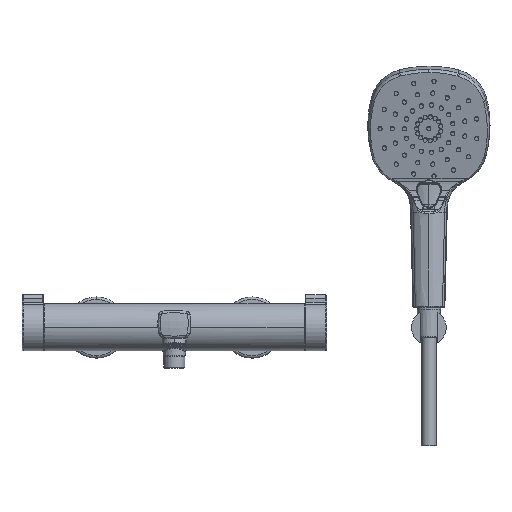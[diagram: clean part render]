
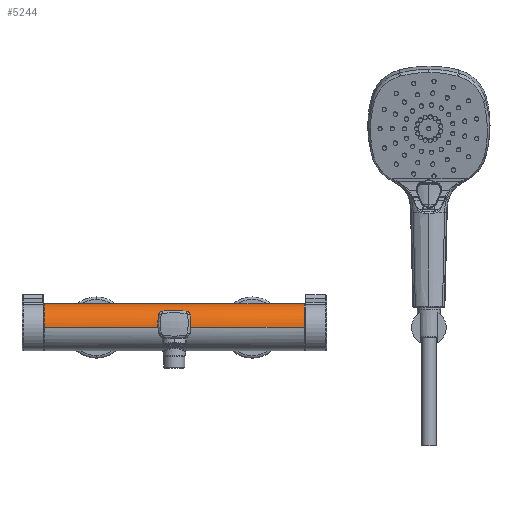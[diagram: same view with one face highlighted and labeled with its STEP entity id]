
A CAD part, top view. The second image highlights one B-rep face of the part: STEP entity #5244.
In plain terms, the highlighted cylindrical face has radius 23 mm (diameter 46 mm), a partial arc.
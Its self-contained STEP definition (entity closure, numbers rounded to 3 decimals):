
#526=CARTESIAN_POINT('',(11.932,15.741,16.77));
#527=CARTESIAN_POINT('',(9.215,15.973,16.552));
#528=CARTESIAN_POINT('',(3.827,16.27,16.257));
#529=CARTESIAN_POINT('',(-3.82,16.27,16.257));
#530=CARTESIAN_POINT('',(-9.212,15.973,16.552));
#531=CARTESIAN_POINT('',(-11.932,15.741,16.77));
#533=CARTESIAN_POINT('',(-11.932,15.741,16.77));
#534=CARTESIAN_POINT('',(-12.219,15.716,16.793));
#535=CARTESIAN_POINT('',(-12.763,15.609,16.894));
#536=CARTESIAN_POINT('',(-13.513,15.292,17.182));
#537=CARTESIAN_POINT('',(-14.143,14.862,17.557));
#538=CARTESIAN_POINT('',(-14.659,14.35,17.979));
#539=CARTESIAN_POINT('',(-15.068,13.766,18.431));
#540=CARTESIAN_POINT('',(-15.372,13.107,18.906));
#541=CARTESIAN_POINT('',(-15.498,12.615,19.234));
#542=CARTESIAN_POINT('',(-15.536,12.355,19.4));
#544=CARTESIAN_POINT('',(-15.536,12.355,19.4));
#545=CARTESIAN_POINT('',(-15.677,11.411,20.001));
#546=CARTESIAN_POINT('',(-15.923,9.452,21.055));
#547=CARTESIAN_POINT('',(-16.152,6.372,22.179));
#548=CARTESIAN_POINT('',(-16.222,3.216,22.85));
#549=CARTESIAN_POINT('',(-16.156,1.07,23.));
#550=CARTESIAN_POINT('',(-16.093,0.,23.));
#552=CARTESIAN_POINT('',(-127.5,0.,0.));
#553=DIRECTION('',(-1.,0.,0.));
#554=DIRECTION('',(0.,0.,1.));
#555=AXIS2_PLACEMENT_3D('',#552,#553,#554);
#557=DIRECTION('',(1.,0.,0.));
#558=VECTOR('',#557,38.921);
#559=CARTESIAN_POINT('',(-127.5,0.,-23.));
#560=LINE('',#559,#558);
#561=CARTESIAN_POINT('',(-88.579,0.,-23.));
#562=CARTESIAN_POINT('',(-88.579,0.75,
-23.));
#563=CARTESIAN_POINT('',(-88.43,2.252,-22.927));
#564=CARTESIAN_POINT('',(-87.721,4.523,-22.589));
#565=CARTESIAN_POINT('',(-86.492,6.694,-22.04));
#566=CARTESIAN_POINT('',(-84.726,8.648,-21.341));
#567=CARTESIAN_POINT('',(-82.534,10.183,-20.639));
#568=CARTESIAN_POINT('',(-80.145,11.176,-20.107));
#569=CARTESIAN_POINT('',(-77.727,11.648,-19.833));
#570=CARTESIAN_POINT('',(-75.316,11.652,-19.83));
#571=CARTESIAN_POINT('',(-72.899,11.189,-20.1));
#572=CARTESIAN_POINT('',(-70.509,10.206,-20.627));
#573=CARTESIAN_POINT('',(-68.308,8.678,-21.328));
#574=CARTESIAN_POINT('',(-66.529,6.725,-22.031));
#575=CARTESIAN_POINT('',(-65.289,4.547,-22.585));
#576=CARTESIAN_POINT('',(-64.574,2.277,-22.925));
#577=CARTESIAN_POINT('',(-64.421,0.76,
-23.));
#578=CARTESIAN_POINT('',(-64.421,0.,-23.));
#580=DIRECTION('',(1.,0.,0.));
#581=VECTOR('',#580,128.843);
#582=CARTESIAN_POINT('',(-64.421,0.,-23.));
#583=LINE('',#582,#581);
#584=CARTESIAN_POINT('',(64.421,0.,-23.));
#585=CARTESIAN_POINT('',(64.421,0.75,-23.));
#586=CARTESIAN_POINT('',(64.57,2.252,-22.927));
#587=CARTESIAN_POINT('',(65.279,4.523,-22.589));
#588=CARTESIAN_POINT('',(66.508,6.694,-22.04));
#589=CARTESIAN_POINT('',(68.274,8.648,-21.341));
#590=CARTESIAN_POINT('',(70.466,10.183,-20.639));
#591=CARTESIAN_POINT('',(72.855,11.176,-20.107));
#592=CARTESIAN_POINT('',(75.273,11.648,-19.833));
#593=CARTESIAN_POINT('',(77.684,11.652,-19.83));
#594=CARTESIAN_POINT('',(80.101,11.189,-20.1));
#595=CARTESIAN_POINT('',(82.491,10.206,-20.627));
#596=CARTESIAN_POINT('',(84.692,8.678,-21.328));
#597=CARTESIAN_POINT('',(86.471,6.725,-22.031));
#598=CARTESIAN_POINT('',(87.711,4.547,-22.585));
#599=CARTESIAN_POINT('',(88.426,2.277,-22.925));
#600=CARTESIAN_POINT('',(88.579,0.76,-23.));
#601=CARTESIAN_POINT('',(88.579,0.,-23.));
#603=DIRECTION('',(1.,0.,0.));
#604=VECTOR('',#603,38.921);
#605=CARTESIAN_POINT('',(88.579,0.,-23.));
#606=LINE('',#605,#604);
#607=CARTESIAN_POINT('',(127.5,0.,0.));
#608=DIRECTION('',(1.,0.,0.));
#609=DIRECTION('',(0.,0.,-1.));
#610=AXIS2_PLACEMENT_3D('',#607,#608,#609);
#612=CARTESIAN_POINT('',(16.093,0.,23.));
#613=CARTESIAN_POINT('',(16.156,1.07,23.));
#614=CARTESIAN_POINT('',(16.222,3.216,22.85));
#615=CARTESIAN_POINT('',(16.152,6.372,22.179));
#616=CARTESIAN_POINT('',(15.923,9.452,21.055));
#617=CARTESIAN_POINT('',(15.677,11.411,20.001));
#618=CARTESIAN_POINT('',(15.536,12.355,19.4));
#620=CARTESIAN_POINT('',(15.536,12.355,19.4));
#621=CARTESIAN_POINT('',(15.498,12.612,19.236));
#622=CARTESIAN_POINT('',(15.374,13.101,18.91));
#623=CARTESIAN_POINT('',(15.071,13.761,18.434));
#624=CARTESIAN_POINT('',(14.66,14.349,17.98));
#625=CARTESIAN_POINT('',(14.14,14.866,17.554));
#626=CARTESIAN_POINT('',(13.509,15.294,17.18));
#627=CARTESIAN_POINT('',(12.759,15.61,16.893));
#628=CARTESIAN_POINT('',(12.217,15.716,16.793));
#629=CARTESIAN_POINT('',(11.932,15.741,16.77));
#733=DIRECTION('',(1.,0.,0.));
#734=VECTOR('',#733,111.407);
#735=CARTESIAN_POINT('',(16.093,0.,23.));
#736=LINE('',#735,#734);
#742=CARTESIAN_POINT('',(88.579,0.,-23.));
#759=CARTESIAN_POINT('',(64.421,0.,-23.));
#761=CARTESIAN_POINT('',(-64.421,0.,-23.));
#778=CARTESIAN_POINT('',(-88.579,0.,-23.));
#785=DIRECTION('',(1.,0.,0.));
#786=VECTOR('',#785,111.407);
#787=CARTESIAN_POINT('',(-127.5,0.,23.));
#788=LINE('',#787,#786);
#3902=VERTEX_POINT('',#742);
#3903=VERTEX_POINT('',#759);
#3906=VERTEX_POINT('',#761);
#3907=VERTEX_POINT('',#778);
#3946=CARTESIAN_POINT('',(127.5,0.,23.));
#3947=CARTESIAN_POINT('',(127.5,0.,-23.));
#3948=VERTEX_POINT('',#3946);
#3949=VERTEX_POINT('',#3947);
#3954=CARTESIAN_POINT('',(-127.5,0.,-23.));
#3955=CARTESIAN_POINT('',(-127.5,0.,23.));
#3956=VERTEX_POINT('',#3954);
#3957=VERTEX_POINT('',#3955);
#4007=VERTEX_POINT('',#526);
#4008=VERTEX_POINT('',#531);
#4009=VERTEX_POINT('',#544);
#4010=VERTEX_POINT('',#550);
#4011=VERTEX_POINT('',#612);
#4012=VERTEX_POINT('',#618);
#5210=CARTESIAN_POINT('',(-128.,0.,0.));
#5211=DIRECTION('',(1.,0.,0.));
#5212=DIRECTION('',(0.,0.,-1.));
#5213=AXIS2_PLACEMENT_3D('',#5210,#5211,#5212);
#5214=CYLINDRICAL_SURFACE('',#5213,23.);
#5216=ORIENTED_EDGE('',*,*,#5215,.T.);
#5218=ORIENTED_EDGE('',*,*,#5217,.T.);
#5220=ORIENTED_EDGE('',*,*,#5219,.T.);
#5222=ORIENTED_EDGE('',*,*,#5221,.F.);
#5224=ORIENTED_EDGE('',*,*,#5223,.T.);
#5226=ORIENTED_EDGE('',*,*,#5225,.T.);
#5228=ORIENTED_EDGE('',*,*,#5227,.T.);
#5230=ORIENTED_EDGE('',*,*,#5229,.T.);
#5232=ORIENTED_EDGE('',*,*,#5231,.T.);
#5234=ORIENTED_EDGE('',*,*,#5233,.T.);
#5235=ORIENTED_EDGE('',*,*,#5204,.T.);
#5237=ORIENTED_EDGE('',*,*,#5236,.F.);
#5239=ORIENTED_EDGE('',*,*,#5238,.T.);
#5241=ORIENTED_EDGE('',*,*,#5240,.T.);
#5242=EDGE_LOOP('',(#5216,#5218,#5220,#5222,#5224,#5226,#5228,#5230,#5232,#5234,
#5235,#5237,#5239,#5241));
#5243=FACE_OUTER_BOUND('',#5242,.F.);
#5244=ADVANCED_FACE('',(#5243),#5214,.T.);
#532=B_SPLINE_CURVE_WITH_KNOTS('',3,(#526,#527,#528,#529,#530,#531),
.UNSPECIFIED.,.F.,.F.,(4,1,1,4),(0.,0.333,0.667,1.),
.UNSPECIFIED.);
#543=B_SPLINE_CURVE_WITH_KNOTS('',3,(#533,#534,#535,#536,#537,#538,#539,#540,
#541,#542),.UNSPECIFIED.,.F.,.F.,(4,1,1,1,1,1,1,4),(0.,0.143,
0.286,0.429,0.571,0.714,
0.857,1.),.UNSPECIFIED.);
#551=B_SPLINE_CURVE_WITH_KNOTS('',3,(#544,#545,#546,#547,#548,#549,#550),
.UNSPECIFIED.,.F.,.F.,(4,1,1,1,4),(0.,0.25,0.5,0.75,1.),
.UNSPECIFIED.);
#556=CIRCLE('',#555,23.);
#579=B_SPLINE_CURVE_WITH_KNOTS('',3,(#561,#562,#563,#564,#565,#566,#567,#568,
#569,#570,#571,#572,#573,#574,#575,#576,#577,#578),.UNSPECIFIED.,.F.,.F.,(4,1,1,
1,1,1,1,1,1,1,1,1,1,1,1,4),(0.,0.067,0.133,0.2,
0.267,0.333,0.4,0.467,0.533,
0.6,0.667,0.733,0.8,0.867,
0.933,1.),.UNSPECIFIED.);
#602=B_SPLINE_CURVE_WITH_KNOTS('',3,(#584,#585,#586,#587,#588,#589,#590,#591,
#592,#593,#594,#595,#596,#597,#598,#599,#600,#601),.UNSPECIFIED.,.F.,.F.,(4,1,1,
1,1,1,1,1,1,1,1,1,1,1,1,4),(0.,0.067,0.133,0.2,
0.267,0.333,0.4,0.467,0.533,
0.6,0.667,0.733,0.8,0.867,
0.933,1.),.UNSPECIFIED.);
#611=CIRCLE('',#610,23.);
#619=B_SPLINE_CURVE_WITH_KNOTS('',3,(#612,#613,#614,#615,#616,#617,#618),
.UNSPECIFIED.,.F.,.F.,(4,1,1,1,4),(0.,0.25,0.5,0.75,1.),
.UNSPECIFIED.);
#630=B_SPLINE_CURVE_WITH_KNOTS('',3,(#620,#621,#622,#623,#624,#625,#626,#627,
#628,#629),.UNSPECIFIED.,.F.,.F.,(4,1,1,1,1,1,1,4),(0.,0.143,
0.286,0.429,0.571,0.714,
0.857,1.),.UNSPECIFIED.);
#5204=EDGE_CURVE('',#3949,#3948,#611,.T.);
#5215=EDGE_CURVE('',#4007,#4008,#532,.T.);
#5217=EDGE_CURVE('',#4008,#4009,#543,.T.);
#5219=EDGE_CURVE('',#4009,#4010,#551,.T.);
#5221=EDGE_CURVE('',#3957,#4010,#788,.T.);
#5223=EDGE_CURVE('',#3957,#3956,#556,.T.);
#5225=EDGE_CURVE('',#3956,#3907,#560,.T.);
#5227=EDGE_CURVE('',#3907,#3906,#579,.T.);
#5229=EDGE_CURVE('',#3906,#3903,#583,.T.);
#5231=EDGE_CURVE('',#3903,#3902,#602,.T.);
#5233=EDGE_CURVE('',#3902,#3949,#606,.T.);
#5236=EDGE_CURVE('',#4011,#3948,#736,.T.);
#5238=EDGE_CURVE('',#4011,#4012,#619,.T.);
#5240=EDGE_CURVE('',#4012,#4007,#630,.T.);
